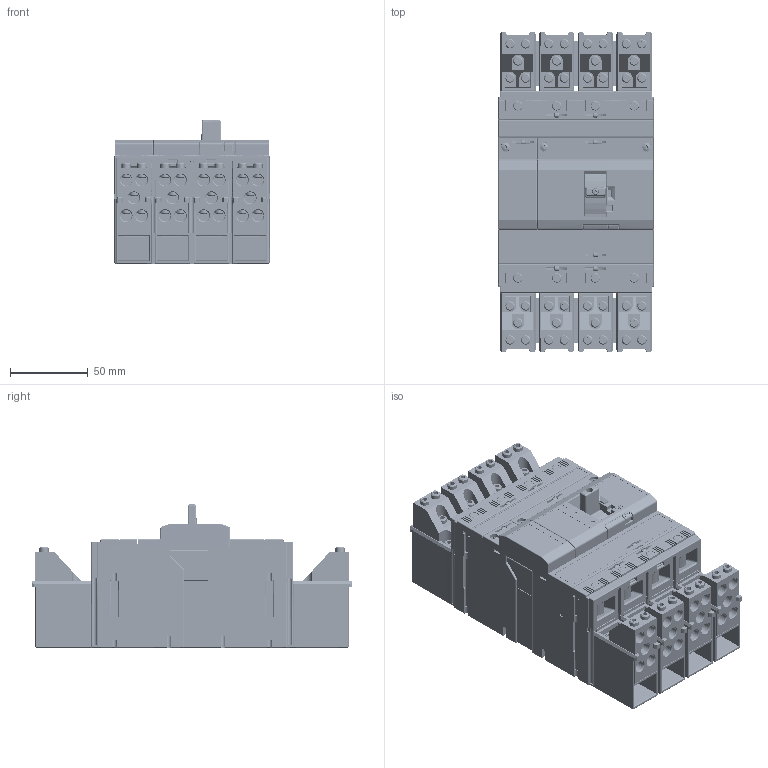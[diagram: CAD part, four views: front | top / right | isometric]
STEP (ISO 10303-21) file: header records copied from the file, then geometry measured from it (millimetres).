
FILE_DESCRIPTION (( 'STEP AP214' ), '1' );
FILE_NAME ('BC160NT405_406__CS-BC-B414_fin.step', '2013-05-17T12:11:24', ( '' ), ( '' ), 'SwSTEP 2.0', 'SolidWorks 2011', '' );
FILE_SCHEMA (( 'AUTOMOTIVE_DESIGN' ));
Length unit declared in the file: millimetre
Products named in the file (1): BC160NT405_406__CS-BC-B414_fin
Bounding box: 100 x 207 x 92.5 mm (x, y, z)
Volume: 1073416 mm3; surface area: 288327.1 mm2
Topology: 13 solids, 13 shells, 7734 faces, 20761 edges, 13177 vertices
Faces by surface type: plane 4289, cylinder 2182, cone 533, bspline 504, torus 202, sphere 24
Entity records: 358445 total; most frequent: CARTESIAN_POINT 88804, ORIENTED_EDGE 41356, DIRECTION 33954, EDGE_CURVE 20678, VECTOR 13688, LINE 13688, VERTEX_POINT 13173, AXIS2_PLACEMENT_3D 10133
